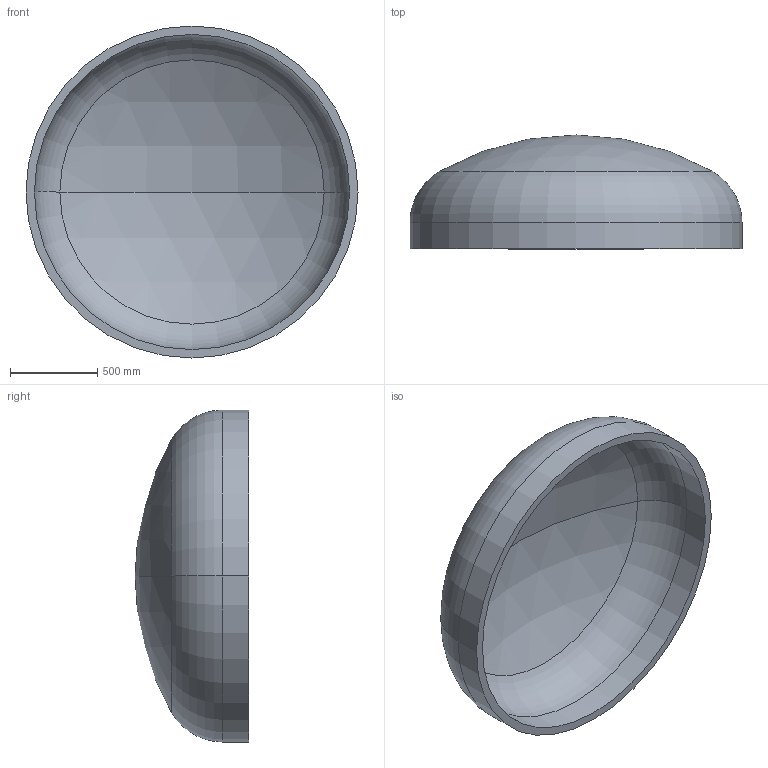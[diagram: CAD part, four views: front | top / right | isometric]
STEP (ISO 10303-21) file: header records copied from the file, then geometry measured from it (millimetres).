
FILE_DESCRIPTION (( 'STEP AP203' ), '1' );
FILE_NAME ('DIN 28013 Korbbogenform_-_Boden DIN 28013 - 1900 x 150 - I - s=48.step', '2016-07-01T13:12:06', ( '' ), ( '' ), 'SwSTEP 2.0', 'SolidWorks 2013', '' );
FILE_SCHEMA (( 'CONFIG_CONTROL_DESIGN' ));
Length unit declared in the file: millimetre
Products named in the file (1): DIN 28013 Korbbogenform_-_Boden DIN 28013 - 1900 x 150 - I - s=48
Bounding box: 1900 x 651.06 x 1900 mm (x, y, z)
Volume: 223913467.3 mm3; surface area: 9613825.5 mm2
Topology: 1 solids, 1 shells, 13 faces, 24 edges, 14 vertices
Faces by surface type: torus 4, cylinder 4, sphere 4, plane 1
Entity records: 407 total; most frequent: DIRECTION 72, CARTESIAN_POINT 52, ORIENTED_EDGE 48, AXIS2_PLACEMENT_3D 34, EDGE_CURVE 24, CIRCLE 20, EDGE_LOOP 14, VERTEX_POINT 14
